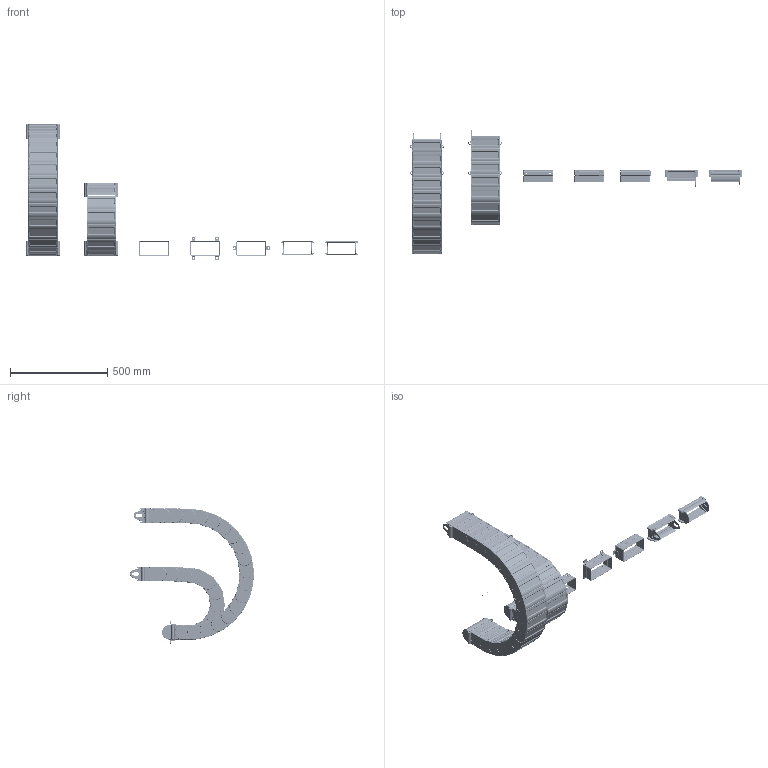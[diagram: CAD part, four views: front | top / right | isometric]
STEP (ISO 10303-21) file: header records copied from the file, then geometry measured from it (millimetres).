
FILE_DESCRIPTION((''),'2;1');
FILE_NAME('C:\Uebbing\PARAMETERKETTEN\PFR\PFR 322\PFR 322 Step.stp','2013-10-15T09:56:40',('Uebbing'),(''),'Autodesk Inventor 10','Autodesk Inventor 10','');
FILE_SCHEMA(('AUTOMOTIVE_DESIGN { 1 0 10303 214 1 1 1 1 }'));
Length unit declared in the file: millimetre
Products named in the file (15): PFR 322 Step; Achse; PFR 322 R75 Glied; PFR 322 Normalanschluss; PFR 323 R75 K_Anschluss; PFR 322 Anschluss B; Anschlusswinkel mit Verschraubung; Anschlusswinkel; Rändelmutter M6 flach; Imbusschraube M6x5 Senkkopf; PFR 322 Anschluss A; PFR 322 R300; PFE 322 SFA Bohrung; PFE 322 SFA Zapfen
Assembly tree (60 placements, depth 4):
  PFR 322 Step
    Achse
    PFR 322 R75 Glied  x11
    PFR 322 Normalanschluss
    PFR 323 R75 K_Anschluss  x2
    PFR 322 Anschluss B
      PFR 322 Anschluss B
      Anschlusswinkel mit Verschraubung  x2
        Anschlusswinkel
        Rändelmutter M6 flach
        Imbusschraube M6x5 Senkkopf
    PFR 322 Anschluss A
      PFR 322 Normalanschluss
      Anschlusswinkel  x4
      Imbusschraube M6x5 Senkkopf  x4
      Rändelmutter M6 flach  x4
    PFR 322 R300
      Achse
      PFR 322 R75 Glied  x18
      PFR 323 R75 K_Anschluss  x2
    PFE 322 SFA Bohrung
    PFE 322 SFA Zapfen
Bounding box: 1707.04 x 636.92 x 695.5 mm (x, y, z)
Volume: 5148381.2 mm3; surface area: 2858039 mm2
Topology: 58 solids, 58 shells, 5911 faces, 14641 edges, 8998 vertices
Faces by surface type: bspline 2634, cylinder 1556, plane 1555, torus 142, cone 24
Full cylindrical faces by diameter (mm): 1 x2, 5 x4, 6 x12, 6.5 x6, 8 x4, 9 x16, 9.2 x6, 11 x6, 12 x6
Entity records: 45769 total; most frequent: CARTESIAN_POINT 21646, ORIENTED_EDGE 4992, DIRECTION 4914, EDGE_CURVE 2496, AXIS2_PLACEMENT_3D 1841, VERTEX_POINT 1534, VECTOR 1232, LINE 1232
